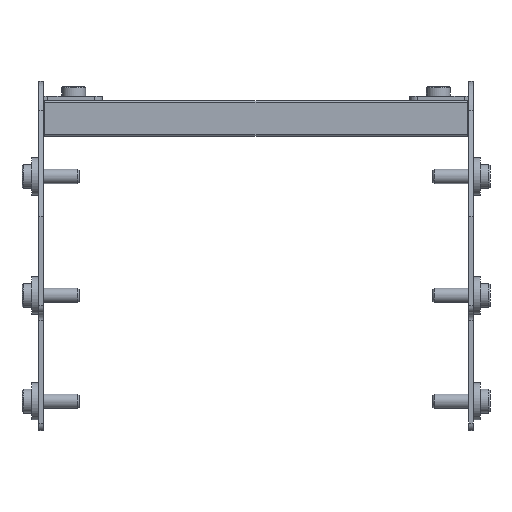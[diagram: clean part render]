
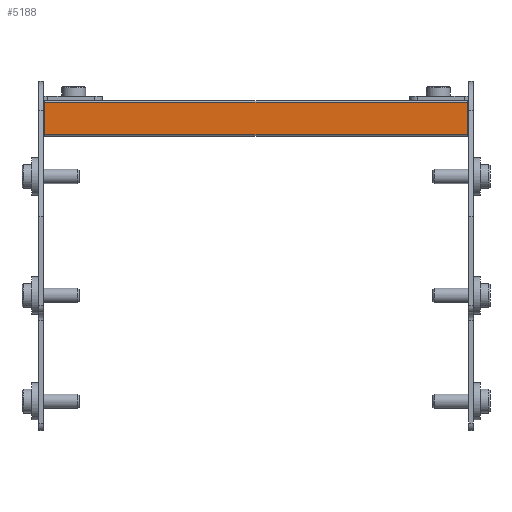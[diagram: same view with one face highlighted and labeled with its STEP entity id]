
A CAD part, front view. The second image highlights one B-rep face of the part: STEP entity #5188.
In plain terms, the highlighted planar face has unit normal (0, -1, 0) as drawn and (1, 0, 0) by its records, which use the part's own axes.
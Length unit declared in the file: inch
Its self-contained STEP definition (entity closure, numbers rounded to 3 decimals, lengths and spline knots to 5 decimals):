
#138 = AXIS2_PLACEMENT_3D ( 'NONE', #4858, #1018, #6002 ) ;
#273 = VECTOR ( 'NONE', #3181, 39.37008 ) ;
#492 = ORIENTED_EDGE ( 'NONE', *, *, #1067, .T. ) ;
#815 = DIRECTION ( 'NONE',  ( 0., 0., -1. ) ) ;
#1018 = DIRECTION ( 'NONE',  ( -1., 0., 0. ) ) ;
#1067 = EDGE_CURVE ( 'NONE', #5425, #6909, #2140, .T. ) ;
#1494 = CARTESIAN_POINT ( 'NONE',  ( 0.78127, 0.26528, 3.5 ) ) ;
#2023 = CARTESIAN_POINT ( 'NONE',  ( 0.78127, -0.26528, 3.5 ) ) ;
#2140 = LINE ( 'NONE', #6025, #6451 ) ;
#2196 = ORIENTED_EDGE ( 'NONE', *, *, #5984, .T. ) ;
#2924 = VECTOR ( 'NONE', #7930, 39.37008 ) ;
#2998 = CARTESIAN_POINT ( 'NONE',  ( 0.78127, 0.26528, -3.5 ) ) ;
#3181 = DIRECTION ( 'NONE',  ( 0., 1., 0. ) ) ;
#3318 = LINE ( 'NONE', #2023, #4593 ) ;
#4042 = EDGE_LOOP ( 'NONE', ( #7654, #7791, #492, #2196 ) ) ;
#4267 = FACE_OUTER_BOUND ( 'NONE', #4042, .T. ) ;
#4382 = CARTESIAN_POINT ( 'NONE',  ( 0.78127, 0.29528, 3.5 ) ) ;
#4593 = VECTOR ( 'NONE', #815, 39.37008 ) ;
#4829 = LINE ( 'NONE', #6093, #2924 ) ;
#4858 = CARTESIAN_POINT ( 'NONE',  ( 0.78127, 0.29528, 3.5 ) ) ;
#5162 = CARTESIAN_POINT ( 'NONE',  ( 0.78127, -0.26528, 3.5 ) ) ;
#5188 = ADVANCED_FACE ( 'NONE', ( #4267 ), #7274, .F. ) ;
#5251 = EDGE_CURVE ( 'NONE', #6283, #7216, #7578, .T. ) ;
#5425 = VERTEX_POINT ( 'NONE', #6365 ) ;
#5984 = EDGE_CURVE ( 'NONE', #6909, #7216, #4829, .T. ) ;
#6002 = DIRECTION ( 'NONE',  ( 0., 0., 1. ) ) ;
#6025 = CARTESIAN_POINT ( 'NONE',  ( 0.78127, 0.29528, -3.5 ) ) ;
#6093 = CARTESIAN_POINT ( 'NONE',  ( 0.78127, 0.26528, 3.5 ) ) ;
#6283 = VERTEX_POINT ( 'NONE', #5162 ) ;
#6365 = CARTESIAN_POINT ( 'NONE',  ( 0.78127, -0.26528, -3.5 ) ) ;
#6451 = VECTOR ( 'NONE', #7345, 39.37008 ) ;
#6909 = VERTEX_POINT ( 'NONE', #2998 ) ;
#7216 = VERTEX_POINT ( 'NONE', #1494 ) ;
#7274 = PLANE ( 'NONE',  #138 ) ;
#7345 = DIRECTION ( 'NONE',  ( 0., 1., 0. ) ) ;
#7578 = LINE ( 'NONE', #4382, #273 ) ;
#7654 = ORIENTED_EDGE ( 'NONE', *, *, #5251, .F. ) ;
#7752 = EDGE_CURVE ( 'NONE', #6283, #5425, #3318, .T. ) ;
#7791 = ORIENTED_EDGE ( 'NONE', *, *, #7752, .T. ) ;
#7930 = DIRECTION ( 'NONE',  ( 0., 0., 1. ) ) ;
